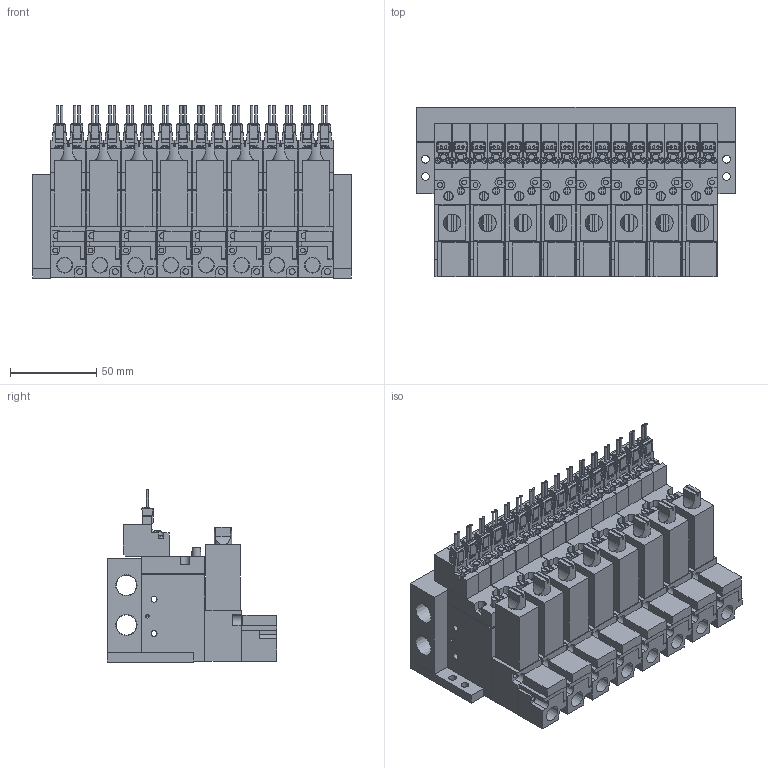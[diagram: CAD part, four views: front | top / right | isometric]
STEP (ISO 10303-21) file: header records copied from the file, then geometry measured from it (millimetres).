
FILE_DESCRIPTION(('STEP AP203'),'1');
FILE_NAME('BMPV32M2NZ25BL808.stp','2025-06-17T01:49:17',(' '),(' '),'Spatial InterOp 3D',' ',' ');
FILE_SCHEMA(('CONFIG_CONTROL_DESIGN'));
Length unit declared in the file: millimetre
Products named in the file (100): BMPV32M2NZ25BL808; S____; ___ ___2; ___-2(Rc); Filter Assy; __; _____; MB BRACKET; MB08; ___; upper plate-A; ______; ____; VACUUM VALVE FUNCTION MPV42-A
Assembly tree (99 placements, depth 2):
  BMPV32M2NZ25BL808
    S____
    ___ ___2
    ___-2(Rc)
    Filter Assy
    __
    _____
    S____
    ___ ___2
    ___-2(Rc)
    Filter Assy
    __
    _____
    S____
    ___ ___2
    ___-2(Rc)
    Filter Assy
    __
    _____
    S____
    ___ ___2
    ___-2(Rc)
    Filter Assy
    __
    _____
    S____
    ___ ___2
    ___-2(Rc)
    Filter Assy
    __
    _____
    S____
    ___ ___2
    ___-2(Rc)
    Filter Assy
    __
    _____
    S____
    ___ ___2
    ___-2(Rc)
    Filter Assy
    __
    _____
    MB BRACKET
    MB08
    MB BRACKET
    S____
    ___ ___2
    ___-2(Rc)
    Filter Assy
    __
    _____
    ___
    upper plate-A
    ______
    ____
    VACUUM VALVE FUNCTION MPV42-A
    VACUUM VALVE FUNCTION MPV42-A
    ___
    upper plate-A
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Bounding box: 184.5 x 98 x 99.75 mm (x, y, z)
Volume: 845315.1 mm3; surface area: 287471.9 mm2
Topology: 99 solids, 99 shells, 2759 faces, 7260 edges, 4832 vertices
Faces by surface type: plane 2245, cylinder 458, cone 56
Full cylindrical faces by diameter (mm): 1.4 x32, 1.8 x16, 2 x16, 2.5 x20, 2.8 x32, 3 x32, 3.5 x84, 4 x8, 4.2 x8, 4.5 x4, 5 x8, 5.5 x8, 6.5 x6, 8.522 x8, 11.776 x2
Entity records: 87518 total; most frequent: CARTESIAN_POINT 14943, DIRECTION 13658, ORIENTED_EDGE 13528, EDGE_CURVE 6764, LINE 5524, VECTOR 5524, VERTEX_POINT 4728, AXIS2_PLACEMENT_3D 4067
